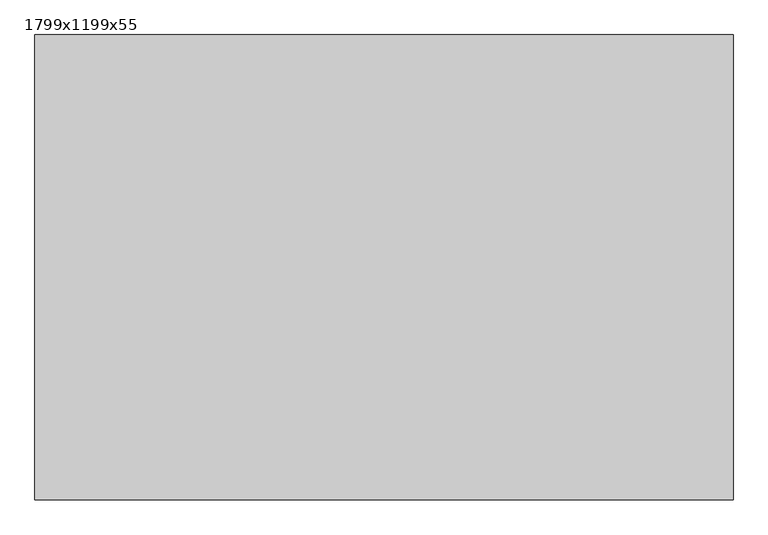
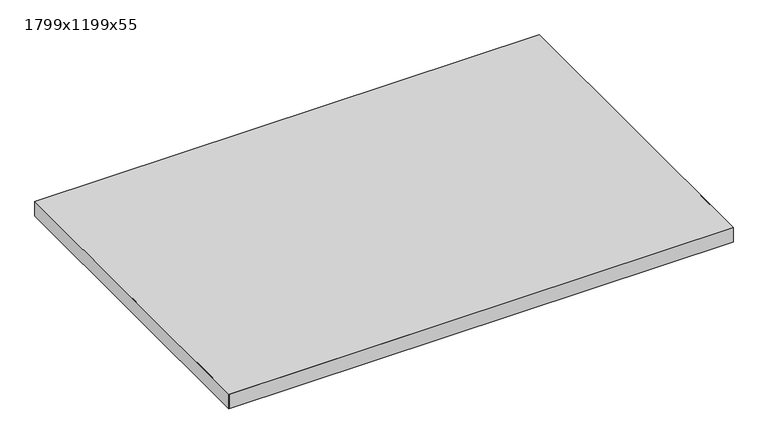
"""IFC4 building model written with IfcOpenShell, lengths in millimetres: proxy geometry, Texaa Panneaux Stereo fixés contre support par système magnétique séparés ou groupés au plafond : 1799x1199x55."""

from ifc_helpers import new_model, si_unit, frame, origin, place, context, project, spatial, polyline, outline, extrude, faceted_brep, source, transform, mapped, element, save


def proxy_1799x1199x55_3171fdd1(model_context):
    return source(origin(), model_context, "Body", "SolidModel", [
        extrude(outline(polyline([(-898.5, -598.5), (-898.5, 598.5), (898.5, 598.5), (898.5, -598.5), (-898.5, -598.5)])), frame((0.0, 0.0, 11.0), z_axis=(0.0, 0.0, 1.0), x_axis=(1.0, 0.0, 0.0)), (0.0, 0.0, 1.0), 53.0),
        faceted_brep([(899.5, 599.5, 65.0), (-899.5, 599.5, 65.0), (-899.5, -599.5, 65.0), (899.5, -599.5, 65.0), (-899.5, -599.5, 10.0), (-899.5, 599.5, 10.0), (899.5, 599.5, 10.0), (899.5, -599.5, 10.0), (-849.5, 549.5, 10.0), (-849.5, -549.5, 10.0), (849.5, -549.5, 10.0), (849.5, 549.5, 10.0), (849.5, 549.5, 11.0), (-849.5, 549.5, 11.0), (849.5, -549.5, 11.0), (-849.5, -549.5, 11.0), (898.5, -598.5, 64.0), (-898.5, -598.5, 64.0), (-898.5, 598.5, 64.0), (898.5, 598.5, 64.0), (-898.5, -598.5, 11.0), (898.5, -598.5, 11.0), (898.5, 598.5, 11.0), (-898.5, 598.5, 11.0)], [[[0, 1, 2, 3]], [[4, 5, 6, 7], [8, 9, 10, 11]], [[4, 2, 1, 5]], [[5, 1, 0, 6]], [[3, 7, 6, 0]], [[2, 4, 7, 3]], [[8, 11, 12, 13]], [[11, 10, 14, 12]], [[10, 9, 15, 14]], [[13, 15, 9, 8]], [[16, 17, 18, 19]], [[20, 21, 22, 23], [12, 14, 15, 13]], [[23, 18, 17, 20]], [[22, 19, 18, 23]], [[19, 22, 21, 16]], [[20, 17, 16, 21]]]),
    ])


if __name__ == "__main__":
    model = new_model("IFC4")
    model_context = context("Model", 3, world=origin())
    ifc_project = project(units=[si_unit("LENGTHUNIT", "METRE", prefix="MILLI")], contexts=[model_context])
    site = spatial("IfcSite", under=ifc_project)
    building = spatial("IfcBuilding", under=site)
    placement = place(None, origin())
    proxy_1799x1199x55_shape = proxy_1799x1199x55_3171fdd1(model_context)
    element("IfcBuildingElementProxy", 1, Name="Texaa Panneaux Stereo fixés contre support par système magnétique séparés ou groupés au plafond : 1799x1199x55", ObjectType="Texaa Panneaux Stereo fixés contre support par système magnétique séparés ou groupés au plafond : 1799x1199x55", at=placement, inside=building, context=model_context, shape_type="MappedRepresentation", body=[
        mapped(proxy_1799x1199x55_shape, transform((0.0, 0.0, 0.0), x_axis=(1.0, 0.0, 0.0), y_axis=(0.0, 1.0, 0.0), z_axis=(0.0, 0.0, 1.0))),
    ])
    save(model, "model.ifc")
